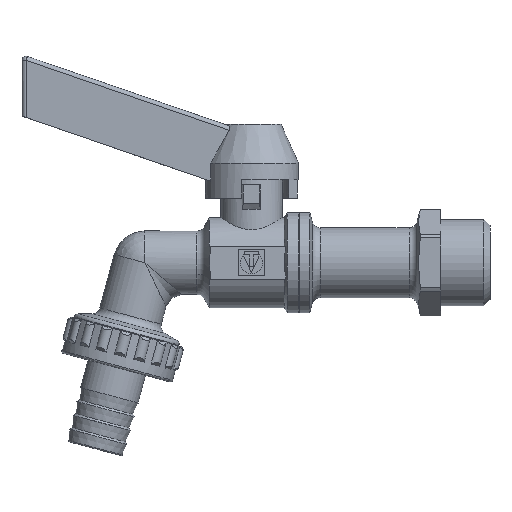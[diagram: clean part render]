
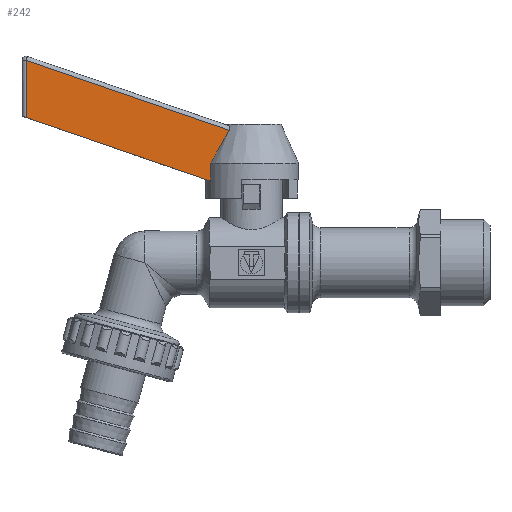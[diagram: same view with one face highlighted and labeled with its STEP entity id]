
A CAD part, left-side view. The second image highlights one B-rep face of the part: STEP entity #242.
In plain terms, the highlighted planar face has unit normal (-1, 0, 0).
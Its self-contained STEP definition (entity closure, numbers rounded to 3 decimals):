
#242=ADVANCED_FACE('',(#2106),#2108,.F.);
#2106=FACE_BOUND('',#2107,.T.);
#2107=EDGE_LOOP('',(#6502,#6503,#6504,#6505,#6506));
#2108=PLANE('',#2109);
#2109=AXIS2_PLACEMENT_3D('',#2110,#2111,#2112);
#2110=CARTESIAN_POINT('',(-5.75,11.75,24.275));
#2111=DIRECTION('',(1.,0.,0.));
#2112=DIRECTION('',(0.,1.,0.));
#6502=ORIENTED_EDGE('',*,*,#9077,.F.);
#6503=ORIENTED_EDGE('',*,*,#9078,.F.);
#6504=ORIENTED_EDGE('',*,*,#8989,.F.);
#6505=ORIENTED_EDGE('',*,*,#9071,.F.);
#6506=ORIENTED_EDGE('',*,*,#9079,.F.);
#8989=EDGE_CURVE('',#10811,#10813,#10814,.F.);
#9071=EDGE_CURVE('',#10938,#10811,#10941,.T.);
#9077=EDGE_CURVE('',#10951,#10952,#10953,.T.);
#9078=EDGE_CURVE('',#10813,#10951,#10954,.T.);
#9079=EDGE_CURVE('',#10952,#10938,#10955,.T.);
#10811=VERTEX_POINT('',#15182);
#10813=VERTEX_POINT('',#15187);
#10814=LINE('',#15188,#15189);
#10938=VERTEX_POINT('',#16907);
#10941=B_SPLINE_CURVE_WITH_KNOTS('',3,
(#16950,#16951,#16952,#16953,#16954,#16955,#16956,#16957,#16958,#16959,#16960,#16961,
#16962,#16963,#16964,#16965,#16966,#16967,#16968,#16969,#16970,#16971,#16972,#16973,
#16974,#16975,#16976,#16977,#16978,#16979,#16980),
.UNSPECIFIED.,.F.,.F.,
(4,1,1,1,1,1,1,1,1,1,1,1,1,1,1,1,1,1,1,1,1,1,1,1,1,1,1,1,4),
(0.,0.026,0.053,0.08,0.096,
0.108,0.137,0.179,0.222,0.267,
0.304,0.312,0.342,0.383,0.425,
0.47,0.517,0.566,0.567,0.616,
0.668,0.72,0.775,0.83,0.83,
0.886,0.943,0.98,1.),
.UNSPECIFIED.);
#10951=VERTEX_POINT('',#17089);
#10952=VERTEX_POINT('',#17090);
#10953=LINE('',#17091,#17092);
#10954=LINE('',#17094,#17095);
#10955=LINE('',#17097,#17098);
#15182=CARTESIAN_POINT('',(-5.75,21.709,24.275));
#15187=CARTESIAN_POINT('',(-5.75,21.709,19.922));
#15188=CARTESIAN_POINT('',(-5.75,21.709,19.922));
#15189=VECTOR('',#15190,1.);
#15190=DIRECTION('',(0.,0.,1.));
#16907=CARTESIAN_POINT('',(-5.75,17.179,32.305));
#16950=CARTESIAN_POINT('',(-5.75,17.179,32.305));
#16951=CARTESIAN_POINT('',(-5.75,17.223,32.238));
#16952=CARTESIAN_POINT('',(-5.75,17.311,32.102));
#16953=CARTESIAN_POINT('',(-5.75,17.443,31.895));
#16954=CARTESIAN_POINT('',(-5.75,17.558,31.713));
#16955=CARTESIAN_POINT('',(-5.75,17.649,31.568));
#16956=CARTESIAN_POINT('',(-5.75,17.742,31.419));
#16957=CARTESIAN_POINT('',(-5.75,17.875,31.202));
#16958=CARTESIAN_POINT('',(-5.75,18.058,30.903));
#16959=CARTESIAN_POINT('',(-5.75,18.264,30.56));
#16960=CARTESIAN_POINT('',(-5.75,18.46,30.229));
#16961=CARTESIAN_POINT('',(-5.75,18.6,29.99));
#16962=CARTESIAN_POINT('',(-5.75,18.716,29.791));
#16963=CARTESIAN_POINT('',(-5.75,18.838,29.58));
#16964=CARTESIAN_POINT('',(-5.75,19.01,29.279));
#16965=CARTESIAN_POINT('',(-5.75,19.205,28.936));
#16966=CARTESIAN_POINT('',(-5.75,19.408,28.576));
#16967=CARTESIAN_POINT('',(-5.75,19.618,28.199));
#16968=CARTESIAN_POINT('',(-5.75,19.76,27.94));
#16969=CARTESIAN_POINT('',(-5.75,19.907,27.674));
#16970=CARTESIAN_POINT('',(-5.75,20.057,27.399));
#16971=CARTESIAN_POINT('',(-5.75,20.282,26.983));
#16972=CARTESIAN_POINT('',(-5.75,20.513,26.554));
#16973=CARTESIAN_POINT('',(-5.75,20.747,26.114));
#16974=CARTESIAN_POINT('',(-5.75,20.904,25.817));
#16975=CARTESIAN_POINT('',(-5.75,21.064,25.515));
#16976=CARTESIAN_POINT('',(-5.75,21.225,25.207));
#16977=CARTESIAN_POINT('',(-5.75,21.439,24.797));
#16978=CARTESIAN_POINT('',(-5.75,21.601,24.486));
#16979=CARTESIAN_POINT('',(-5.75,21.681,24.329));
#16980=CARTESIAN_POINT('',(-5.75,21.709,24.275));
#17089=CARTESIAN_POINT('',(-5.75,66.75,35.431));
#17090=CARTESIAN_POINT('',(-5.75,66.75,49.373));
#17091=CARTESIAN_POINT('',(-5.75,66.75,35.431));
#17092=VECTOR('',#17093,1.);
#17093=DIRECTION('',(0.,0.,1.));
#17094=CARTESIAN_POINT('',(-5.75,21.709,19.922));
#17095=VECTOR('',#17096,1.);
#17096=DIRECTION('',(0.,0.946,0.326));
#17097=CARTESIAN_POINT('',(-5.75,66.75,49.373));
#17098=VECTOR('',#17099,1.);
#17099=DIRECTION('',(0.,-0.946,-0.326));
